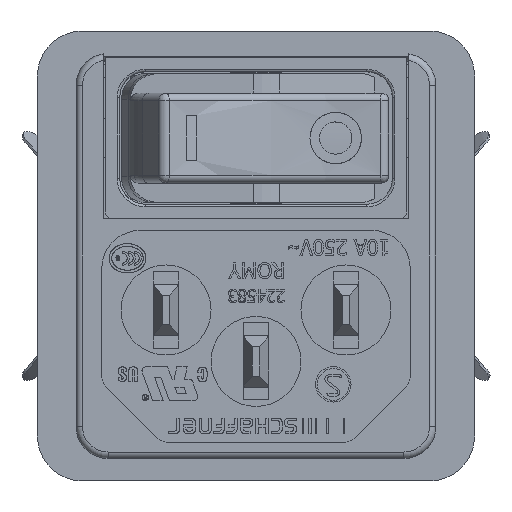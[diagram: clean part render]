
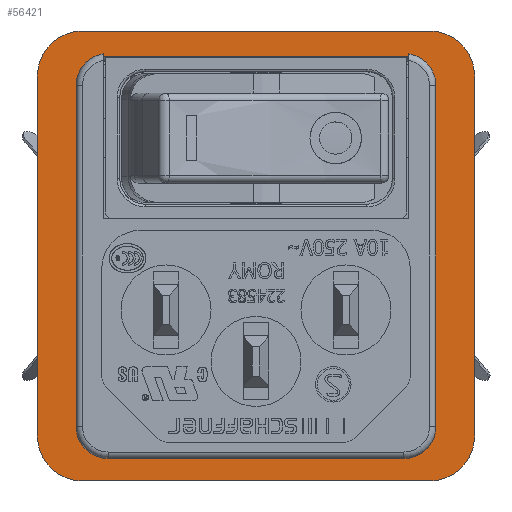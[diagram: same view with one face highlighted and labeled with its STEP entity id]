
A CAD part, left-side view. The second image highlights one B-rep face of the part: STEP entity #56421.
In plain terms, the highlighted planar face has unit normal (-1, 0, 0).
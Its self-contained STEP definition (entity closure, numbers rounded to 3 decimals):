
#3580=FACE_BOUND('',#7064,.T.);
#4201=FACE_OUTER_BOUND('',#7063,.T.);
#7063=EDGE_LOOP('',(#39256,#39257,#39258,#39259,#39260,#39261,#39262,#39263));
#7064=EDGE_LOOP('',(#39264,#39265,#39266,#39267,#39268,#39269,#39270,#39271,
#39272,#39273));
#9878=CIRCLE('',#59441,3.5);
#9879=CIRCLE('',#59442,3.5);
#9880=CIRCLE('',#59443,3.5);
#9881=CIRCLE('',#59444,3.5);
#9882=CIRCLE('',#59445,2.5);
#9883=CIRCLE('',#59446,2.5);
#9884=CIRCLE('',#59447,2.5);
#9885=CIRCLE('',#59448,2.5);
#10772=LINE('',#77720,#17841);
#10779=LINE('',#77732,#17848);
#10780=LINE('',#77736,#17849);
#10781=LINE('',#77740,#17850);
#10782=LINE('',#77744,#17851);
#10783=LINE('',#77748,#17852);
#10784=LINE('',#77749,#17853);
#10785=LINE('',#77753,#17854);
#10786=LINE('',#77757,#17855);
#10787=LINE('',#77761,#17856);
#17841=VECTOR('',#63590,10.);
#17848=VECTOR('',#63599,10.);
#17849=VECTOR('',#63602,10.);
#17850=VECTOR('',#63605,10.);
#17851=VECTOR('',#63608,10.);
#17852=VECTOR('',#63611,10.);
#17853=VECTOR('',#63612,10.);
#17854=VECTOR('',#63615,10.);
#17855=VECTOR('',#63618,10.);
#17856=VECTOR('',#63621,10.);
#24874=VERTEX_POINT('',#77717);
#24875=VERTEX_POINT('',#77719);
#24878=VERTEX_POINT('',#77730);
#24879=VERTEX_POINT('',#77731);
#24880=VERTEX_POINT('',#77733);
#24881=VERTEX_POINT('',#77735);
#24882=VERTEX_POINT('',#77737);
#24883=VERTEX_POINT('',#77739);
#24884=VERTEX_POINT('',#77741);
#24885=VERTEX_POINT('',#77743);
#24886=VERTEX_POINT('',#77746);
#24887=VERTEX_POINT('',#77747);
#24888=VERTEX_POINT('',#77750);
#24889=VERTEX_POINT('',#77752);
#24890=VERTEX_POINT('',#77754);
#24891=VERTEX_POINT('',#77756);
#24892=VERTEX_POINT('',#77758);
#24893=VERTEX_POINT('',#77760);
#30477=EDGE_CURVE('',#24875,#24874,#10772,.T.);
#30484=EDGE_CURVE('',#24878,#24879,#10779,.T.);
#30485=EDGE_CURVE('',#24879,#24880,#9878,.T.);
#30486=EDGE_CURVE('',#24880,#24881,#10780,.T.);
#30487=EDGE_CURVE('',#24881,#24882,#9879,.T.);
#30488=EDGE_CURVE('',#24882,#24883,#10781,.T.);
#30489=EDGE_CURVE('',#24883,#24884,#9880,.T.);
#30490=EDGE_CURVE('',#24884,#24885,#10782,.T.);
#30491=EDGE_CURVE('',#24885,#24878,#9881,.T.);
#30492=EDGE_CURVE('',#24886,#24887,#10783,.T.);
#30493=EDGE_CURVE('',#24875,#24887,#10784,.T.);
#30494=EDGE_CURVE('',#24888,#24874,#9882,.T.);
#30495=EDGE_CURVE('',#24889,#24888,#10785,.T.);
#30496=EDGE_CURVE('',#24890,#24889,#9883,.T.);
#30497=EDGE_CURVE('',#24891,#24890,#10786,.T.);
#30498=EDGE_CURVE('',#24892,#24891,#9884,.T.);
#30499=EDGE_CURVE('',#24893,#24892,#10787,.T.);
#30500=EDGE_CURVE('',#24886,#24893,#9885,.T.);
#39256=ORIENTED_EDGE('',*,*,#30484,.T.);
#39257=ORIENTED_EDGE('',*,*,#30485,.T.);
#39258=ORIENTED_EDGE('',*,*,#30486,.T.);
#39259=ORIENTED_EDGE('',*,*,#30487,.T.);
#39260=ORIENTED_EDGE('',*,*,#30488,.T.);
#39261=ORIENTED_EDGE('',*,*,#30489,.T.);
#39262=ORIENTED_EDGE('',*,*,#30490,.T.);
#39263=ORIENTED_EDGE('',*,*,#30491,.T.);
#39264=ORIENTED_EDGE('',*,*,#30492,.T.);
#39265=ORIENTED_EDGE('',*,*,#30493,.F.);
#39266=ORIENTED_EDGE('',*,*,#30477,.T.);
#39267=ORIENTED_EDGE('',*,*,#30494,.F.);
#39268=ORIENTED_EDGE('',*,*,#30495,.F.);
#39269=ORIENTED_EDGE('',*,*,#30496,.F.);
#39270=ORIENTED_EDGE('',*,*,#30497,.F.);
#39271=ORIENTED_EDGE('',*,*,#30498,.F.);
#39272=ORIENTED_EDGE('',*,*,#30499,.F.);
#39273=ORIENTED_EDGE('',*,*,#30500,.F.);
#53957=PLANE('',#59440);
#56421=ADVANCED_FACE('',(#4201,#3580),#53957,.F.);
#59440=AXIS2_PLACEMENT_3D('',#77729,#63597,#63598);
#59441=AXIS2_PLACEMENT_3D('',#77734,#63600,#63601);
#59442=AXIS2_PLACEMENT_3D('',#77738,#63603,#63604);
#59443=AXIS2_PLACEMENT_3D('',#77742,#63606,#63607);
#59444=AXIS2_PLACEMENT_3D('',#77745,#63609,#63610);
#59445=AXIS2_PLACEMENT_3D('',#77751,#63613,#63614);
#59446=AXIS2_PLACEMENT_3D('',#77755,#63616,#63617);
#59447=AXIS2_PLACEMENT_3D('',#77759,#63619,#63620);
#59448=AXIS2_PLACEMENT_3D('',#77762,#63622,#63623);
#63590=DIRECTION('',(0.,0.,1.));
#63597=DIRECTION('center_axis',(1.,0.,0.));
#63598=DIRECTION('ref_axis',(0.,0.,-1.));
#63599=DIRECTION('',(0.,1.,0.));
#63600=DIRECTION('center_axis',(-1.,0.,0.));
#63601=DIRECTION('ref_axis',(0.,-1.,0.));
#63602=DIRECTION('',(0.,0.,-1.));
#63603=DIRECTION('center_axis',(-1.,0.,0.));
#63604=DIRECTION('ref_axis',(0.,0.,
1.));
#63605=DIRECTION('',(0.,-1.,0.));
#63606=DIRECTION('center_axis',(-1.,0.,0.));
#63607=DIRECTION('ref_axis',(0.,1.,0.));
#63608=DIRECTION('',(0.,0.,1.));
#63609=DIRECTION('center_axis',(-1.,0.,0.));
#63610=DIRECTION('ref_axis',(0.,0.,
-1.));
#63611=DIRECTION('',(0.,0.,-1.));
#63612=DIRECTION('',(0.,1.,0.));
#63613=DIRECTION('center_axis',(-1.,0.,0.));
#63614=DIRECTION('ref_axis',(0.,0.,
-1.));
#63615=DIRECTION('',(0.,0.,1.));
#63616=DIRECTION('center_axis',(-1.,0.,0.));
#63617=DIRECTION('ref_axis',(0.,1.,0.));
#63618=DIRECTION('',(0.,-1.,0.));
#63619=DIRECTION('center_axis',(-1.,0.,0.));
#63620=DIRECTION('ref_axis',(0.,0.,
1.));
#63621=DIRECTION('',(0.,0.,-1.));
#63622=DIRECTION('center_axis',(-1.,0.,0.));
#63623=DIRECTION('ref_axis',(0.,-1.,0.));
#77717=CARTESIAN_POINT('',(-25.206,-5.385,18.804));
#77719=CARTESIAN_POINT('',(-25.206,-5.385,18.582));
#77720=CARTESIAN_POINT('',(-25.206,-5.385,20.673));
#77729=CARTESIAN_POINT('Origin',(-25.206,6.49,3.082));
#77730=CARTESIAN_POINT('',(-25.206,-7.01,20.582));
#77731=CARTESIAN_POINT('',(-25.206,19.99,20.582));
#77732=CARTESIAN_POINT('',(-25.206,-7.01,20.582));
#77733=CARTESIAN_POINT('',(-25.206,23.49,17.082));
#77734=CARTESIAN_POINT('Origin',(-25.206,19.99,17.082));
#77735=CARTESIAN_POINT('',(-25.206,23.49,-10.918));
#77736=CARTESIAN_POINT('',(-25.206,23.49,17.082));
#77737=CARTESIAN_POINT('',(-25.206,19.99,-14.418));
#77738=CARTESIAN_POINT('Origin',(-25.206,19.99,-10.918));
#77739=CARTESIAN_POINT('',(-25.206,-7.01,-14.418));
#77740=CARTESIAN_POINT('',(-25.206,19.99,-14.418));
#77741=CARTESIAN_POINT('',(-25.206,-10.51,-10.918));
#77742=CARTESIAN_POINT('Origin',(-25.206,-7.01,-10.918));
#77743=CARTESIAN_POINT('',(-25.206,-10.51,17.082));
#77744=CARTESIAN_POINT('',(-25.206,-10.51,-10.918));
#77745=CARTESIAN_POINT('Origin',(-25.206,-7.01,17.082));
#77746=CARTESIAN_POINT('',(-25.206,18.365,18.804));
#77747=CARTESIAN_POINT('',(-25.206,18.365,18.582));
#77748=CARTESIAN_POINT('',(-25.206,18.365,18.543));
#77749=CARTESIAN_POINT('',(-25.206,12.428,18.582));
#77750=CARTESIAN_POINT('',(-25.206,-7.51,16.332));
#77751=CARTESIAN_POINT('Origin',(-25.206,-5.01,16.332));
#77752=CARTESIAN_POINT('',(-25.206,-7.51,-10.168));
#77753=CARTESIAN_POINT('',(-25.206,-7.51,-10.168));
#77754=CARTESIAN_POINT('',(-25.206,-5.01,-12.668));
#77755=CARTESIAN_POINT('Origin',(-25.206,-5.01,-10.168));
#77756=CARTESIAN_POINT('',(-25.206,17.99,-12.668));
#77757=CARTESIAN_POINT('',(-25.206,17.99,-12.668));
#77758=CARTESIAN_POINT('',(-25.206,20.49,-10.168));
#77759=CARTESIAN_POINT('Origin',(-25.206,17.99,-10.168));
#77760=CARTESIAN_POINT('',(-25.206,20.49,16.332));
#77761=CARTESIAN_POINT('',(-25.206,20.49,16.332));
#77762=CARTESIAN_POINT('Origin',(-25.206,17.99,16.332));
